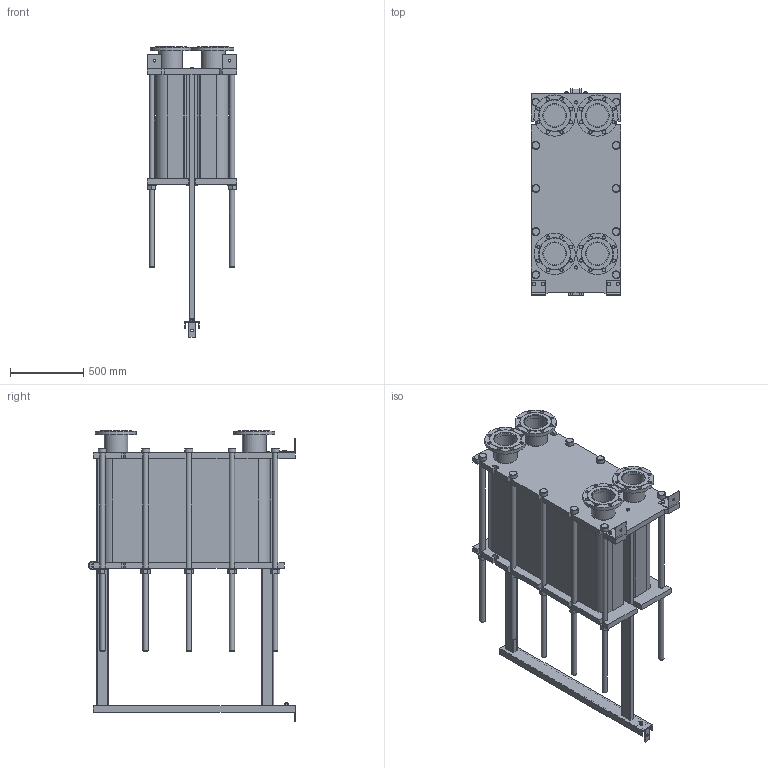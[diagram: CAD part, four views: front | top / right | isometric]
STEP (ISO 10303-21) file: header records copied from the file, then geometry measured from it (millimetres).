
FILE_DESCRIPTION(/* description */ (''),/* implementation_level */ '2;1');
FILE_NAME(/* name */ 'C:\Users\zhuro\Desktop\ENCO\TO\ЭН-041\ЭН-0,5-041-205-1.stp',/* time_stamp */ '2022-06-06T11:06:34+03:00',/* author */ ('zhuro'),/* organization */ (''),/* preprocessor_version */ 'ST-DEVELOPER v18.1',/* originating_system */ 'Autodesk Inventor 2022',/* authorisation */ '');
FILE_SCHEMA (('AUTOMOTIVE_DESIGN { 1 0 10303 214 3 1 1 }'));
Length unit declared in the file: millimetre
Products named in the file (1): ЭН-0,5-041-205-1
Bounding box: 610 x 1406.5 x 1977.5 mm (x, y, z)
Volume: 485635536 mm3; surface area: 11339675 mm2
Topology: 52 solids, 52 shells, 711 faces, 1696 edges, 1094 vertices
Faces by surface type: plane 487, cylinder 177, cone 41, torus 6
Full cylindrical faces by diameter (mm): 8 x4, 10 x2, 16 x8, 18 x3, 22 x32, 36 x24, 50 x1, 54 x10, 60 x12, 151 x4, 161 x8, 280 x4
Entity records: 22667 total; most frequent: CARTESIAN_POINT 5230, DIRECTION 3644, ORIENTED_EDGE 3392, EDGE_CURVE 1696, AXIS2_PLACEMENT_3D 1272, LINE 1100, VECTOR 1100, VERTEX_POINT 1094
